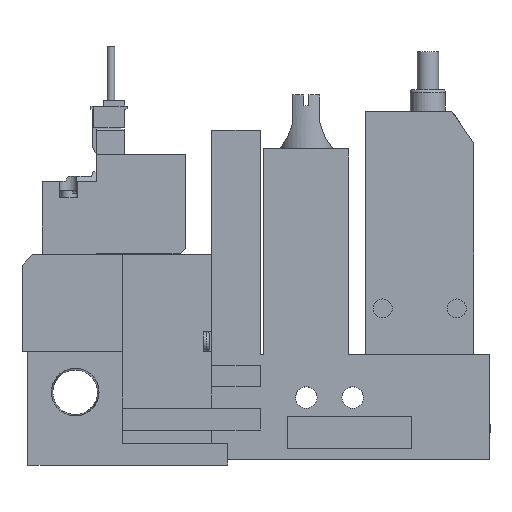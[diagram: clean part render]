
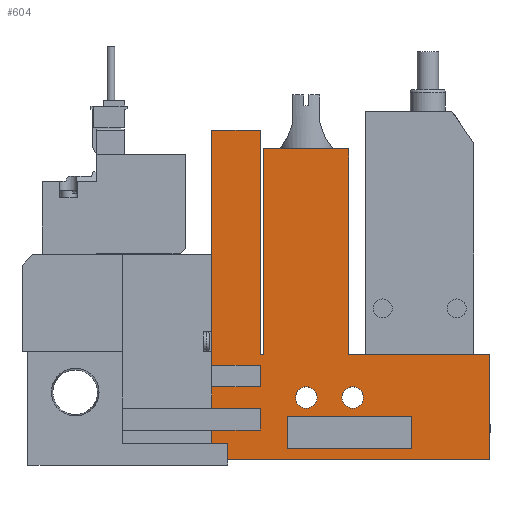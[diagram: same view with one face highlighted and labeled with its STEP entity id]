
A CAD part, top view. The second image highlights one B-rep face of the part: STEP entity #604.
In plain terms, the highlighted planar face has unit normal (0, 0, 1).
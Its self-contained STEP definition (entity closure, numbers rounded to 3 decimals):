
#604=ADVANCED_FACE('',(#1297,#1298,#1299,#1300),#1301,.T.);
#1297=FACE_OUTER_BOUND('',#2129,.T.);
#1298=FACE_BOUND('',#2130,.T.);
#1299=FACE_BOUND('',#2131,.T.);
#1300=FACE_BOUND('',#2132,.T.);
#1301=PLANE('',#2133);
#2129=EDGE_LOOP('',(#4636,#4637,#4638,#4639,#4640,#4641,#4642,#4643,#4644,#4645,#4646,#4647,#4648,#4649,#4650,#4651,#4652,#4653));
#2130=EDGE_LOOP('',(#4654,#4655,#4656,#4657));
#2131=EDGE_LOOP('',(#4658));
#2132=EDGE_LOOP('',(#4659));
#2133=AXIS2_PLACEMENT_3D('',#4660,#4661,#4662);
#4636=ORIENTED_EDGE('',*,*,#6129,.T.);
#4637=ORIENTED_EDGE('',*,*,#6125,.T.);
#4638=ORIENTED_EDGE('',*,*,#6130,.T.);
#4639=ORIENTED_EDGE('',*,*,#6131,.T.);
#4640=ORIENTED_EDGE('',*,*,#6132,.T.);
#4641=ORIENTED_EDGE('',*,*,#6133,.T.);
#4642=ORIENTED_EDGE('',*,*,#6134,.T.);
#4643=ORIENTED_EDGE('',*,*,#6135,.T.);
#4644=ORIENTED_EDGE('',*,*,#6136,.T.);
#4645=ORIENTED_EDGE('',*,*,#6137,.T.);
#4646=ORIENTED_EDGE('',*,*,#6093,.T.);
#4647=ORIENTED_EDGE('',*,*,#6039,.T.);
#4648=ORIENTED_EDGE('',*,*,#6138,.T.);
#4649=ORIENTED_EDGE('',*,*,#6139,.T.);
#4650=ORIENTED_EDGE('',*,*,#6140,.T.);
#4651=ORIENTED_EDGE('',*,*,#6102,.T.);
#4652=ORIENTED_EDGE('',*,*,#6141,.T.);
#4653=ORIENTED_EDGE('',*,*,#6142,.T.);
#4654=ORIENTED_EDGE('',*,*,#6143,.T.);
#4655=ORIENTED_EDGE('',*,*,#6144,.T.);
#4656=ORIENTED_EDGE('',*,*,#6121,.T.);
#4657=ORIENTED_EDGE('',*,*,#6049,.T.);
#4658=ORIENTED_EDGE('',*,*,#6032,.T.);
#4659=ORIENTED_EDGE('',*,*,#6057,.T.);
#4660=CARTESIAN_POINT('',(0.0,0.0,10.0));
#4661=DIRECTION('',(0.0,0.0,1.0));
#4662=DIRECTION('',(1.0,0.0,0.0));
#6032=EDGE_CURVE('',#7434,#7434,#7435,.T.);
#6039=EDGE_CURVE('',#7449,#7447,#7450,.T.);
#6049=EDGE_CURVE('',#7462,#7467,#7469,.T.);
#6057=EDGE_CURVE('',#7482,#7482,#7483,.T.);
#6093=EDGE_CURVE('',#7551,#7449,#7552,.T.);
#6102=EDGE_CURVE('',#7569,#7567,#7570,.T.);
#6121=EDGE_CURVE('',#7597,#7462,#7599,.T.);
#6125=EDGE_CURVE('',#7600,#7603,#7605,.T.);
#6129=EDGE_CURVE('',#7611,#7600,#7612,.T.);
#6130=EDGE_CURVE('',#7603,#7613,#7614,.T.);
#6131=EDGE_CURVE('',#7613,#7615,#7616,.T.);
#6132=EDGE_CURVE('',#7615,#7617,#7618,.T.);
#6133=EDGE_CURVE('',#7617,#7619,#7620,.T.);
#6134=EDGE_CURVE('',#7619,#7621,#7622,.T.);
#6135=EDGE_CURVE('',#7621,#7623,#7624,.T.);
#6136=EDGE_CURVE('',#7623,#7625,#7626,.T.);
#6137=EDGE_CURVE('',#7625,#7551,#7627,.T.);
#6138=EDGE_CURVE('',#7447,#7628,#7629,.T.);
#6139=EDGE_CURVE('',#7628,#7630,#7631,.T.);
#6140=EDGE_CURVE('',#7630,#7569,#7632,.T.);
#6141=EDGE_CURVE('',#7567,#7633,#7634,.T.);
#6142=EDGE_CURVE('',#7633,#7611,#7635,.T.);
#6143=EDGE_CURVE('',#7467,#7636,#7637,.T.);
#6144=EDGE_CURVE('',#7636,#7597,#7638,.T.);
#7434=VERTEX_POINT('',#9691);
#7435=CIRCLE('',#9692,2.0);
#7447=VERTEX_POINT('',#9705);
#7449=VERTEX_POINT('',#9708);
#7450=LINE('',#9709,#9710);
#7462=VERTEX_POINT('',#9727);
#7467=VERTEX_POINT('',#9734);
#7469=LINE('',#9737,#9738);
#7482=VERTEX_POINT('',#9757);
#7483=CIRCLE('',#9758,2.0);
#7551=VERTEX_POINT('',#9859);
#7552=LINE('',#9860,#9861);
#7567=VERTEX_POINT('',#9882);
#7569=VERTEX_POINT('',#9885);
#7570=LINE('',#9886,#9887);
#7597=VERTEX_POINT('',#9928);
#7599=LINE('',#9931,#9932);
#7600=VERTEX_POINT('',#9933);
#7603=VERTEX_POINT('',#9938);
#7605=LINE('',#9941,#9942);
#7611=VERTEX_POINT('',#9951);
#7612=LINE('',#9952,#9953);
#7613=VERTEX_POINT('',#9954);
#7614=LINE('',#9955,#9956);
#7615=VERTEX_POINT('',#9957);
#7616=LINE('',#9958,#9959);
#7617=VERTEX_POINT('',#9960);
#7618=LINE('',#9961,#9962);
#7619=VERTEX_POINT('',#9963);
#7620=LINE('',#9964,#9965);
#7621=VERTEX_POINT('',#9966);
#7622=LINE('',#9967,#9968);
#7623=VERTEX_POINT('',#9969);
#7624=LINE('',#9970,#9971);
#7625=VERTEX_POINT('',#9972);
#7626=LINE('',#9973,#9974);
#7627=LINE('',#9975,#9976);
#7628=VERTEX_POINT('',#9977);
#7629=LINE('',#9978,#9979);
#7630=VERTEX_POINT('',#9980);
#7631=LINE('',#9981,#9982);
#7632=LINE('',#9983,#9984);
#7633=VERTEX_POINT('',#9985);
#7634=LINE('',#9986,#9987);
#7635=LINE('',#9988,#9989);
#7636=VERTEX_POINT('',#9990);
#7637=LINE('',#9991,#9992);
#7638=LINE('',#9993,#9994);
#9691=CARTESIAN_POINT('',(54.6,11.5,10.0));
#9692=AXIS2_PLACEMENT_3D('',#11259,#11260,#11261);
#9705=CARTESIAN_POINT('',(60.45,19.5,10.0));
#9708=CARTESIAN_POINT('',(86.6,19.5,10.0));
#9709=CARTESIAN_POINT('',(86.6,19.5,10.0));
#9710=VECTOR('',#11276,1.0);
#9727=CARTESIAN_POINT('',(72.1,2.0,10.0));
#9734=CARTESIAN_POINT('',(49.1,2.0,10.0));
#9737=CARTESIAN_POINT('',(0.0,2.0,10.0));
#9738=VECTOR('',#11288,1.0);
#9757=CARTESIAN_POINT('',(63.2,11.5,10.0));
#9758=AXIS2_PLACEMENT_3D('',#11298,#11299,#11300);
#9859=CARTESIAN_POINT('',(86.6,0.0,10.0));
#9860=CARTESIAN_POINT('',(86.6,0.0,10.0));
#9861=VECTOR('',#11340,1.0);
#9882=CARTESIAN_POINT('',(44.1,19.5,10.0));
#9885=CARTESIAN_POINT('',(44.75,19.5,10.0));
#9886=CARTESIAN_POINT('',(44.75,19.5,10.0));
#9887=VECTOR('',#11351,1.0);
#9928=CARTESIAN_POINT('',(72.1,8.0,10.0));
#9931=CARTESIAN_POINT('',(72.1,0.0,10.0));
#9932=VECTOR('',#11376,1.0);
#9933=CARTESIAN_POINT('',(35.1,17.5,10.0));
#9938=CARTESIAN_POINT('',(44.1,17.5,10.0));
#9941=CARTESIAN_POINT('',(0.0,17.5,10.0));
#9942=VECTOR('',#11380,1.0);
#9951=CARTESIAN_POINT('',(35.1,61.0,10.0));
#9952=CARTESIAN_POINT('',(35.1,61.0,10.0));
#9953=VECTOR('',#11384,1.0);
#9954=CARTESIAN_POINT('',(44.1,13.5,10.0));
#9955=CARTESIAN_POINT('',(44.1,0.0,10.0));
#9956=VECTOR('',#11385,1.0);
#9957=CARTESIAN_POINT('',(35.1,13.5,10.0));
#9958=CARTESIAN_POINT('',(0.0,13.5,10.0));
#9959=VECTOR('',#11386,1.0);
#9960=CARTESIAN_POINT('',(35.1,9.5,10.0));
#9961=CARTESIAN_POINT('',(35.1,0.0,10.0));
#9962=VECTOR('',#11387,1.0);
#9963=CARTESIAN_POINT('',(44.1,9.5,10.0));
#9964=CARTESIAN_POINT('',(0.0,9.5,10.0));
#9965=VECTOR('',#11388,1.0);
#9966=CARTESIAN_POINT('',(44.1,5.5,10.0));
#9967=CARTESIAN_POINT('',(44.1,0.0,10.0));
#9968=VECTOR('',#11389,1.0);
#9969=CARTESIAN_POINT('',(35.1,5.5,10.0));
#9970=CARTESIAN_POINT('',(0.0,5.5,10.0));
#9971=VECTOR('',#11390,1.0);
#9972=CARTESIAN_POINT('',(35.1,0.0,10.0));
#9973=CARTESIAN_POINT('',(35.1,0.0,10.0));
#9974=VECTOR('',#11391,1.0);
#9975=CARTESIAN_POINT('',(18.6,0.0,10.0));
#9976=VECTOR('',#11392,1.0);
#9977=CARTESIAN_POINT('',(60.45,57.5,10.0));
#9978=CARTESIAN_POINT('',(60.45,19.5,10.0));
#9979=VECTOR('',#11393,1.0);
#9980=CARTESIAN_POINT('',(44.75,57.5,10.0));
#9981=CARTESIAN_POINT('',(60.45,57.5,10.0));
#9982=VECTOR('',#11394,1.0);
#9983=CARTESIAN_POINT('',(44.75,57.5,10.0));
#9984=VECTOR('',#11395,1.0);
#9985=CARTESIAN_POINT('',(44.1,61.0,10.0));
#9986=CARTESIAN_POINT('',(44.1,19.5,10.0));
#9987=VECTOR('',#11396,1.0);
#9988=CARTESIAN_POINT('',(44.1,61.0,10.0));
#9989=VECTOR('',#11397,1.0);
#9990=CARTESIAN_POINT('',(49.1,8.0,10.0));
#9991=CARTESIAN_POINT('',(49.1,0.0,10.0));
#9992=VECTOR('',#11398,1.0);
#9993=CARTESIAN_POINT('',(0.0,8.0,10.0));
#9994=VECTOR('',#11399,1.0);
#11259=CARTESIAN_POINT('',(52.6,11.5,10.0));
#11260=DIRECTION('',(0.0,0.0,-1.0));
#11261=DIRECTION('',(1.0,0.0,0.0));
#11276=DIRECTION('',(-1.0,0.0,0.0));
#11288=DIRECTION('',(-1.0,0.0,0.0));
#11298=CARTESIAN_POINT('',(61.2,11.5,10.0));
#11299=DIRECTION('',(0.0,0.0,-1.0));
#11300=DIRECTION('',(1.0,0.0,0.0));
#11340=DIRECTION('',(0.0,1.0,0.0));
#11351=DIRECTION('',(-1.0,0.0,0.0));
#11376=DIRECTION('',(0.0,-1.0,0.0));
#11380=DIRECTION('',(1.0,0.0,0.0));
#11384=DIRECTION('',(0.0,-1.0,0.0));
#11385=DIRECTION('',(0.0,-1.0,0.0));
#11386=DIRECTION('',(-1.0,0.0,0.0));
#11387=DIRECTION('',(0.0,-1.0,0.0));
#11388=DIRECTION('',(1.0,0.0,0.0));
#11389=DIRECTION('',(0.0,-1.0,0.0));
#11390=DIRECTION('',(-1.0,0.0,0.0));
#11391=DIRECTION('',(0.0,-1.0,0.0));
#11392=DIRECTION('',(1.0,0.0,0.0));
#11393=DIRECTION('',(0.0,1.0,0.0));
#11394=DIRECTION('',(-1.0,0.0,0.0));
#11395=DIRECTION('',(0.0,-1.0,0.0));
#11396=DIRECTION('',(0.0,1.0,0.0));
#11397=DIRECTION('',(-1.0,0.0,0.0));
#11398=DIRECTION('',(0.0,1.0,0.0));
#11399=DIRECTION('',(1.0,0.0,0.0));
